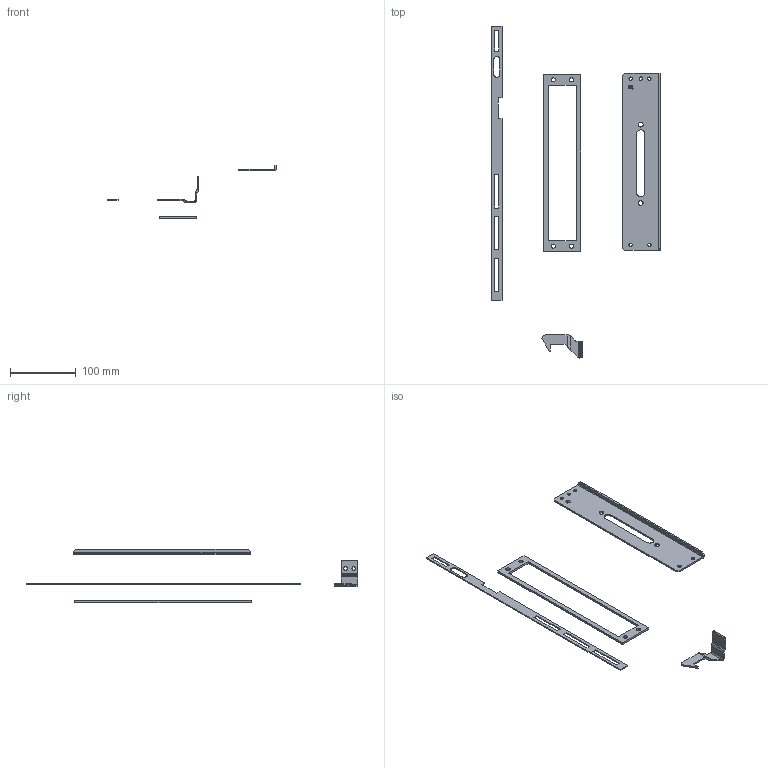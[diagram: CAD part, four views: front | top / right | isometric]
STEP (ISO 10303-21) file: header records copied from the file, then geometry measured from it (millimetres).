
FILE_DESCRIPTION (( 'STEP AP203' ), '1' );
FILE_NAME ('28087.step', '2014-10-01T10:54:39', ( '' ), ( '' ), 'SwSTEP 2.0', 'SolidWorks 2010', '' );
FILE_SCHEMA (( 'CONFIG_CONTROL_DESIGN' ));
Length unit declared in the file: inch
Products named in the file (5): 23101002; 87951268; 89109613; 26250001; 28087
Assembly tree (4 placements, depth 2):
  28087
    89109613
    26250001
    23101002
    87951268
Bounding box: 256.41 x 504.06 x 81.5 mm (x, y, z)
Volume: 66798.5 mm3; surface area: 64131.6 mm2
Topology: 4 solids, 4 shells, 180 faces, 499 edges, 330 vertices
Faces by surface type: plane 98, cylinder 49, bspline 33
Entity records: 7572 total; most frequent: CARTESIAN_POINT 2530, ORIENTED_EDGE 998, DIRECTION 818, EDGE_CURVE 499, LINE 330, VECTOR 330, VERTEX_POINT 330, AXIS2_PLACEMENT_3D 244
